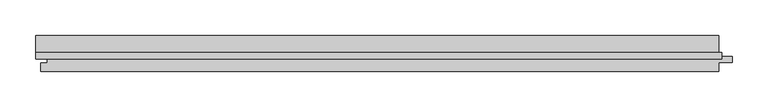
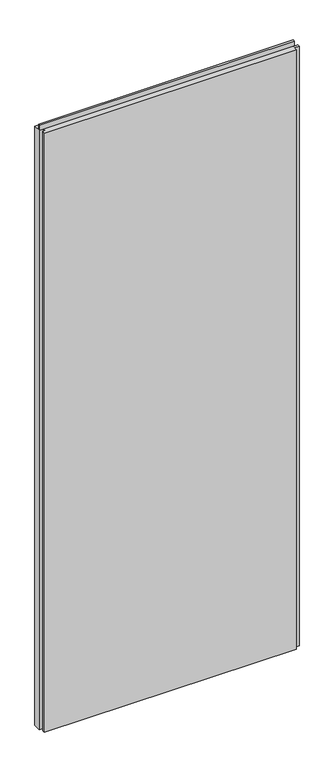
"""IFC4 building model written with IfcOpenShell, lengths in millimetres: plate geometry, Trimo_Qbiss Screen_Normal Panel-VERTICAL : HR - FB."""

from ifc_helpers import new_model, si_unit, frame, origin, place, context, project, spatial, polyline, outline, extrude, source, transform, mapped, element, save


def plate_c34a1dad(model_context):
    return source(origin(), model_context, "Body", "SweptSolid", [
        extrude(outline(polyline([(-477.0, 93.9), (-477.0, 102.6), (477.0, 102.6), (477.0, 93.9), (-477.0, 93.9)])), frame((0.0, 0.0, 2390.5), z_axis=(0.0, 0.0, 1.0), x_axis=(1.0, 0.0, 0.0)), (0.0, 0.0, 1.0), 19.0),
        extrude(outline(polyline([(473.0, 97.0), (491.5, 97.0), (491.5, 89.0), (473.0, 89.0), (473.0, 76.0), (-470.0, 76.0), (-470.0, 88.0), (-461.5, 88.0), (-461.5, 98.0), (-477.0, 98.0), (-477.0, 126.0), (473.0, 126.0), (473.0, 97.0)])), frame((0.0, 0.0, 12.5), z_axis=(0.0, 0.0, 1.0), x_axis=(1.0, 0.0, 0.0)), (0.0, 0.0, 1.0), 2375.0),
    ])


if __name__ == "__main__":
    model = new_model("IFC4")
    model_context = context("Model", 3, world=origin())
    ifc_project = project(units=[si_unit("LENGTHUNIT", "METRE", prefix="MILLI")], contexts=[model_context])
    site = spatial("IfcSite", under=ifc_project)
    building = spatial("IfcBuilding", under=site)
    placement = place(None, origin())
    plate_shape = plate_c34a1dad(model_context)
    element("IfcPlate", 1, ObjectType="Trimo_Qbiss Screen_Normal Panel-VERTICAL : HR - FB", at=placement, inside=building, context=model_context, shape_type="MappedRepresentation", body=[
        mapped(plate_shape, transform((0.0, 0.0, 0.0), x_axis=(1.0, 0.0, 0.0), y_axis=(0.0, 1.0, 0.0), z_axis=(0.0, 0.0, 1.0))),
    ])
    save(model, "model.ifc")
